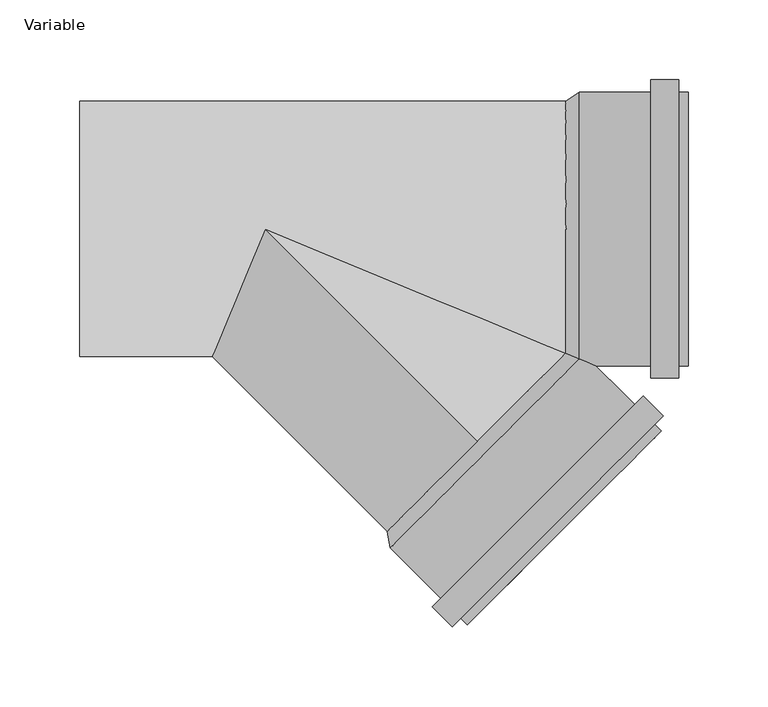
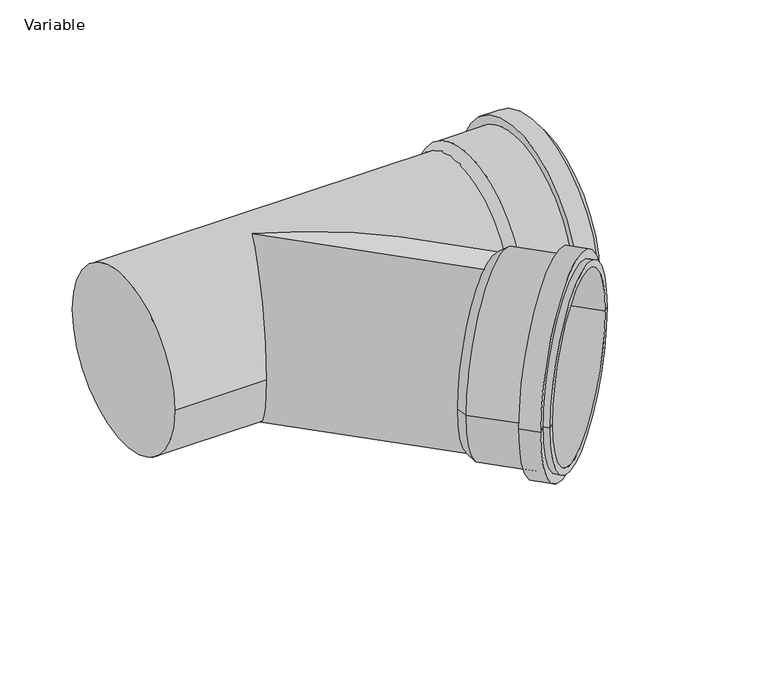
"""IFC4 building model written with IfcOpenShell, lengths in millimetres: pipe fitting geometry, AliaxisFR_Friaphon_Branch_FR : Variable."""

from ifc_helpers import new_model, si_unit, frame, origin, place, context, project, spatial, polyline, circle_curve, ellipse_curve, source, transform, mapped, element, save
from ifc_brep_helpers import plane_surface, cylinder_surface, revolved_surface, advanced_brep


def variable_fdb76eed(model_context):
    return source(origin(), model_context, "Body", "AdvancedBrep", [
        advanced_brep(
        [(126.7135352, -248.0530588, 0.0), (248.0530588, -126.7135352, 0.0), (243.9518395, -130.8147545, 0.0), (130.8147545, -243.9518395, 0.0), (104.6518036, -236.8807717, 0.0), (236.8807717, -104.6518036, 0.0), (249.3965617, -117.1675936, 0.0), (117.1675936, -249.3965617, 0.0), (110.0965258, -231.4360495, 0.0), (231.4360495, -110.0965258, 0.0), (78.5595634, -199.899087, 0.0), (199.899087, -78.5595634, 0.0), (189.6460387, -76.5089537, 0.0), (76.5089537, -189.6460387, 0.0), (122.6123159, -243.9518395, 0.0), (243.9518395, -122.6123159, 0.0)],
        [
            (0, 1, circle_curve(frame((187.383297, -187.383297, 0.0), z_axis=(0.7071067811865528, -0.7071067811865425, 0.0), x_axis=(0.7071067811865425, 0.7071067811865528, 0.0)), 85.8)),
            (1, 2),
            (2, 3, circle_curve(frame((187.383297, -187.383297, 0.0), z_axis=(-0.7071067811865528, 0.7071067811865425, 0.0), x_axis=(0.7071067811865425, 0.7071067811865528, 0.0)), 80.0)),
            (3, 0),
            (1, 0, circle_curve(frame((187.383297, -187.383297, 0.0), z_axis=(0.7071067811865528, -0.7071067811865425, 0.0), x_axis=(0.7071067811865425, 0.7071067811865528, 0.0)), 85.8)),
            (3, 2, circle_curve(frame((187.383297, -187.383297, 0.0), z_axis=(-0.7071067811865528, 0.7071067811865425, 0.0), x_axis=(0.7071067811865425, 0.7071067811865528, 0.0)), 80.0)),
            (4, 5, circle_curve(frame((170.7662877, -170.7662877, 0.0), z_axis=(0.7071067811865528, -0.7071067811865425, 0.0), x_axis=(0.7071067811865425, 0.7071067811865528, 0.0)), 93.5)),
            (5, 6),
            (6, 7, circle_curve(frame((183.2820777, -183.2820777, 0.0), z_axis=(-0.7071067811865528, 0.7071067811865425, 0.0), x_axis=(0.7071067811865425, 0.7071067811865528, 0.0)), 93.5)),
            (7, 4),
            (5, 4, circle_curve(frame((170.7662877, -170.7662877, 0.0), z_axis=(0.7071067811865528, -0.7071067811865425, 0.0), x_axis=(0.7071067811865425, 0.7071067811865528, 0.0)), 93.5)),
            (7, 6, circle_curve(frame((183.2820777, -183.2820777, 0.0), z_axis=(-0.7071067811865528, 0.7071067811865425, 0.0), x_axis=(0.7071067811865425, 0.7071067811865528, 0.0)), 93.5)),
            (8, 9, circle_curve(frame((170.7662877, -170.7662877, 0.0), z_axis=(0.7071067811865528, -0.7071067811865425, 0.0), x_axis=(0.7071067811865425, 0.7071067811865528, 0.0)), 85.8)),
            (9, 5),
            (4, 8),
            (9, 8, circle_curve(frame((170.7662877, -170.7662877, 0.0), z_axis=(0.7071067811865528, -0.7071067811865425, 0.0), x_axis=(0.7071067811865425, 0.7071067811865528, 0.0)), 85.8)),
            (10, 11, circle_curve(frame((139.2293252, -139.2293252, 0.0), z_axis=(0.7071067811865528, -0.7071067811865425, 0.0), x_axis=(0.7071067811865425, 0.7071067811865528, 0.0)), 85.8)),
            (11, 9),
            (8, 10),
            (11, 10, circle_curve(frame((139.2293252, -139.2293252, 0.0), z_axis=(0.7071067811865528, -0.7071067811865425, 0.0), x_axis=(0.7071067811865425, 0.7071067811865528, 0.0)), 85.8)),
            (2, 12),
            (12, 13, circle_curve(frame((133.0774962, -133.0774962, 0.0), z_axis=(-0.7071067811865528, 0.7071067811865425, 0.0), x_axis=(0.7071067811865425, 0.7071067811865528, 0.0)), 80.0)),
            (13, 3),
            (13, 12, circle_curve(frame((133.0774962, -133.0774962, 0.0), z_axis=(-0.7071067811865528, 0.7071067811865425, 0.0), x_axis=(0.7071067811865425, 0.7071067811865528, 0.0)), 80.0)),
            (12, 11),
            (10, 13),
            (14, 15, circle_curve(frame((183.2820777, -183.2820777, 0.0), z_axis=(0.7071067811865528, -0.7071067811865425, 0.0), x_axis=(0.7071067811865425, 0.7071067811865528, 0.0)), 85.8)),
            (15, 1),
            (0, 14),
            (15, 14, circle_curve(frame((183.2820777, -183.2820777, 0.0), z_axis=(0.7071067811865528, -0.7071067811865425, 0.0), x_axis=(0.7071067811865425, 0.7071067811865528, 0.0)), 85.8)),
            (6, 15),
            (14, 7),
        ],
        [
            plane_surface(frame((187.383297, -187.383297, 0.0), z_axis=(0.7071067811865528, -0.7071067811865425, 0.0), x_axis=(0.7071067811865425, 0.7071067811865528, 0.0))),
            cylinder_surface(frame((133.0774962, -133.0774962, 0.0), z_axis=(-0.7071067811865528, 0.7071067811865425, 0.0), x_axis=(0.7071067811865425, 0.7071067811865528, 0.0)), 93.5),
            plane_surface(frame((170.7662877, -170.7662877, 0.0), z_axis=(-0.7071067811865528, 0.7071067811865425, 0.0), x_axis=(0.7071067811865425, 0.7071067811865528, 0.0))),
            cylinder_surface(frame((133.0774962, -133.0774962, 0.0), z_axis=(-0.7071067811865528, 0.7071067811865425, 0.0), x_axis=(0.7071067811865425, 0.7071067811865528, 0.0)), 85.8),
            revolved_surface(polyline([(189.646038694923, -76.50895370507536, 0.0), (243.95183949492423, -130.8147545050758, 0.0)]), (133.0774962, -133.0774962, 0.0), (-0.7071067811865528, 0.7071067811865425, 0.0)),
            revolved_surface(polyline([(199.899087, -78.5595634, 0.0), (189.6460387, -76.5089537, 0.0)]), (133.0774962, -133.0774962, 0.0), (-0.7071067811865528, 0.7071067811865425, 0.0)),
            plane_surface(frame((183.2820777, -183.2820777, 0.0), z_axis=(0.7071067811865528, -0.7071067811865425, 0.0), x_axis=(0.7071067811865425, 0.7071067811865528, 0.0))),
        ],
        [
            (0, [[1, 2, 3, 4]]),
            (0, [[5, -4, 6, -2]]),
            (1, [[7, 8, 9, 10]]),
            (1, [[11, -10, 12, -8]]),
            (2, [[13, 14, -7, 15]]),
            (2, [[16, -15, -11, -14]]),
            (3, [[17, 18, -13, 19]]),
            (3, [[20, -19, -16, -18]]),
            (4, [[-3, 21, 22, 23]]),
            (4, [[-6, -23, 24, -21]]),
            (5, [[-22, 25, -17, 26]]),
            (5, [[-24, -26, -20, -25]]),
            (3, [[27, 28, -1, 29]]),
            (3, [[30, -29, -5, -28]]),
            (6, [[-9, 31, -27, 32]]),
            (6, [[-12, -32, -30, -31]]),
        ],
    ),
        advanced_brep(
        [(265.0, -85.8, 0.0), (265.0, 85.8, 0.0), (265.0, 80.0, 0.0), (265.0, -80.0, 0.0), (241.5, -93.5, 0.0), (241.5, 93.5, 0.0), (259.2, 93.5, 0.0), (259.2, -93.5, 0.0), (241.5, -85.8, 0.0), (241.5, 85.8, 0.0), (196.9, -85.8, 0.0), (196.9, 85.8, 0.0), (188.2, 80.0, 0.0), (188.2, -80.0, 0.0), (259.2, -85.8, 0.0), (259.2, 85.8, 0.0)],
        [
            (0, 1, circle_curve(frame((265.0, 0.0, 0.0), z_axis=(1.0, 0.0, 0.0), x_axis=(0.0, 1.0, 0.0)), 85.8)),
            (1, 2),
            (2, 3, circle_curve(frame((265.0, 0.0, 0.0), z_axis=(-1.0, 0.0, 0.0), x_axis=(0.0, 1.0, 0.0)), 80.0)),
            (3, 0),
            (1, 0, circle_curve(frame((265.0, 0.0, 0.0), z_axis=(1.0, 0.0, 0.0), x_axis=(0.0, 1.0, 0.0)), 85.8)),
            (3, 2, circle_curve(frame((265.0, 0.0, 0.0), z_axis=(-1.0, 0.0, 0.0), x_axis=(0.0, 1.0, 0.0)), 80.0)),
            (4, 5, circle_curve(frame((241.5, 0.0, 0.0), z_axis=(1.0, 0.0, 0.0), x_axis=(0.0, 1.0, 0.0)), 93.5)),
            (5, 6),
            (6, 7, circle_curve(frame((259.2, 0.0, 0.0), z_axis=(-1.0, 0.0, 0.0), x_axis=(0.0, 1.0, 0.0)), 93.5)),
            (7, 4),
            (5, 4, circle_curve(frame((241.5, 0.0, 0.0), z_axis=(1.0, 0.0, 0.0), x_axis=(0.0, 1.0, 0.0)), 93.5)),
            (7, 6, circle_curve(frame((259.2, 0.0, 0.0), z_axis=(-1.0, 0.0, 0.0), x_axis=(0.0, 1.0, 0.0)), 93.5)),
            (8, 9, circle_curve(frame((241.5, 0.0, 0.0), z_axis=(1.0, 0.0, 0.0), x_axis=(0.0, 1.0, 0.0)), 85.8)),
            (9, 5),
            (4, 8),
            (9, 8, circle_curve(frame((241.5, 0.0, 0.0), z_axis=(1.0, 0.0, 0.0), x_axis=(0.0, 1.0, 0.0)), 85.8)),
            (10, 11, circle_curve(frame((196.9, 0.0, 0.0), z_axis=(1.0, 0.0, 0.0), x_axis=(0.0, 1.0, 0.0)), 85.8)),
            (11, 9),
            (8, 10),
            (11, 10, circle_curve(frame((196.9, 0.0, 0.0), z_axis=(1.0, 0.0, 0.0), x_axis=(0.0, 1.0, 0.0)), 85.8)),
            (2, 12),
            (12, 13, circle_curve(frame((188.2, 0.0, 0.0), z_axis=(-1.0, 0.0, 0.0), x_axis=(0.0, 1.0, 0.0)), 80.0)),
            (13, 3),
            (13, 12, circle_curve(frame((188.2, 0.0, 0.0), z_axis=(-1.0, 0.0, 0.0), x_axis=(0.0, 1.0, 0.0)), 80.0)),
            (12, 11),
            (10, 13),
            (14, 15, circle_curve(frame((259.2, 0.0, 0.0), z_axis=(1.0, 0.0, 0.0), x_axis=(0.0, 1.0, 0.0)), 85.8)),
            (15, 1),
            (0, 14),
            (15, 14, circle_curve(frame((259.2, 0.0, 0.0), z_axis=(1.0, 0.0, 0.0), x_axis=(0.0, 1.0, 0.0)), 85.8)),
            (6, 15),
            (14, 7),
        ],
        [
            plane_surface(frame((265.0, 0.0, 0.0), z_axis=(1.0, 0.0, 0.0), x_axis=(0.0, 1.0, 0.0))),
            cylinder_surface(frame((188.2, 0.0, 0.0), z_axis=(-1.0, 0.0, 0.0), x_axis=(0.0, 1.0, 0.0)), 93.5),
            plane_surface(frame((241.5, 0.0, 0.0), z_axis=(-1.0, 0.0, 0.0), x_axis=(0.0, 1.0, 0.0))),
            cylinder_surface(frame((188.2, 0.0, 0.0), z_axis=(-1.0, 0.0, 0.0), x_axis=(0.0, 1.0, 0.0)), 85.8),
            revolved_surface(polyline([(188.2, 80.0, 0.0), (265.0, 80.0, 0.0)]), (188.2, 0.0, 0.0), (-1.0, 0.0, 0.0)),
            revolved_surface(polyline([(196.9, 85.8, 0.0), (188.2, 80.0, 0.0)]), (188.2, 0.0, 0.0), (-1.0, 0.0, 0.0)),
            plane_surface(frame((259.2, 0.0, 0.0), z_axis=(1.0, 0.0, 0.0), x_axis=(0.0, 1.0, 0.0))),
        ],
        [
            (0, [[1, 2, 3, 4]]),
            (0, [[5, -4, 6, -2]]),
            (1, [[7, 8, 9, 10]]),
            (1, [[11, -10, 12, -8]]),
            (2, [[13, 14, -7, 15]]),
            (2, [[16, -15, -11, -14]]),
            (3, [[17, 18, -13, 19]]),
            (3, [[20, -19, -16, -18]]),
            (4, [[-3, 21, 22, 23]]),
            (4, [[-6, -23, 24, -21]]),
            (5, [[-22, 25, -17, 26]]),
            (5, [[-24, -26, -20, -25]]),
            (3, [[27, 28, -1, 29]]),
            (3, [[30, -29, -5, -28]]),
            (6, [[-9, 31, -27, 32]]),
            (6, [[-12, -32, -30, -31]]),
        ],
    ),
        advanced_brep(
        [(194.0, -80.0, 0.0), (194.0, 80.0, 0.0), (-116.0, -80.0, 0.0), (-116.0, 80.0, 0.0), (193.137085, -80.0, 0.0), (0.0, 0.0, -80.0), (-33.137085, -80.0, 0.0), (0.0, 0.0, 80.0), (137.1787156, -137.1787156, -80.0), (137.1787156, -137.1787156, 80.0)],
        [
            (0, 1, circle_curve(frame((194.0, 0.0, 0.0), z_axis=(1.0, 0.0, 0.0), x_axis=(0.0, 1.0, 0.0)), 80.0)),
            (1, 0, circle_curve(frame((194.0, 0.0, 0.0), z_axis=(1.0, 0.0, 0.0), x_axis=(0.0, 1.0, 0.0)), 80.0)),
            (2, 3, circle_curve(frame((-116.0, 0.0, 0.0), z_axis=(-1.0, 0.0, 0.0), x_axis=(0.0, 1.0, 0.0)), 80.0)),
            (3, 2, circle_curve(frame((-116.0, 0.0, 0.0), z_axis=(-1.0, 0.0, 0.0), x_axis=(0.0, 1.0, 0.0)), 80.0)),
            (0, 4),
            (4, 5, ellipse_curve(frame((0.0, 0.0, 0.0), z_axis=(0.3826834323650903, 0.9238795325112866, 0.0), x_axis=(0.9238795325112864, -0.3826834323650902, 0.0)), 209.0500744, 80.0)),
            (5, 6, ellipse_curve(frame((0.0, 0.0, 0.0), z_axis=(-0.9238795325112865, 0.3826834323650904, 0.0), x_axis=(0.3826834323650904, 0.9238795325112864, 0.0)), 86.591376, 80.0)),
            (6, 2),
            (3, 1),
            (6, 7, ellipse_curve(frame((0.0, 0.0, 0.0), z_axis=(-0.9238795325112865, 0.3826834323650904, 0.0), x_axis=(0.3826834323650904, 0.9238795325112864, 0.0)), 86.591376, 80.0)),
            (7, 4, ellipse_curve(frame((0.0, 0.0, 0.0), z_axis=(0.3826834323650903, 0.9238795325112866, 0.0), x_axis=(0.9238795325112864, -0.3826834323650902, 0.0)), 209.0500744, 80.0)),
            (8, 9, circle_curve(frame((137.1787156, -137.1787156, 0.0), z_axis=(0.7071067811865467, -0.7071067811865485, 0.0), x_axis=(0.0, 0.0, 1.0)), 80.0)),
            (9, 8, circle_curve(frame((137.1787156, -137.1787156, 0.0), z_axis=(0.7071067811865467, -0.7071067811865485, 0.0), x_axis=(0.0, 0.0, 1.0)), 80.0)),
            (8, 5),
            (7, 9),
        ],
        [
            plane_surface(frame((194.0, 80.0, 0.0), z_axis=(1.0, 0.0, 0.0), x_axis=(0.0, 0.0, 1.0))),
            plane_surface(frame((-116.0, 80.0, 0.0), z_axis=(-1.0, 0.0, 0.0), x_axis=(0.0, 0.0, -1.0))),
            cylinder_surface(frame((-116.0, 0.0, 0.0), z_axis=(1.0, 0.0, 0.0), x_axis=(0.0, 1.0, 0.0)), 80.0),
            plane_surface(frame((137.1787156, -137.1787156, 80.0), z_axis=(0.7071067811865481, -0.707106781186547, 0.0), x_axis=(-0.707106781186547, -0.7071067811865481, 0.0))),
            cylinder_surface(frame((137.1787156, -137.1787156, 0.0), z_axis=(-0.7071067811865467, 0.7071067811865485, 0.0), x_axis=(0.0, 0.0, 1.0)), 80.0),
        ],
        [
            (0, [[1, 2]]),
            (1, [[3, 4]]),
            (2, [[-1, 5, 6, 7, 8, -4, 9]]),
            (2, [[-2, -9, -3, -8, 10, 11, -5]]),
            (3, [[12, 13]]),
            (4, [[-12, 14, -6, -11, 15]]),
            (4, [[-13, -15, -10, -7, -14]]),
        ],
    ),
    ])


if __name__ == "__main__":
    model = new_model("IFC4")
    model_context = context("Model", 3, world=origin())
    ifc_project = project(units=[si_unit("LENGTHUNIT", "METRE", prefix="MILLI")], contexts=[model_context])
    site = spatial("IfcSite", under=ifc_project)
    building = spatial("IfcBuilding", under=site)
    placement = place(None, origin())
    variable_shape = variable_fdb76eed(model_context)
    element("IfcPipeFitting", 1, ObjectType="AliaxisFR_Friaphon_Branch_FR : Variable", at=placement, inside=building, context=model_context, shape_type="MappedRepresentation", body=[
        mapped(variable_shape, transform((0.0, 0.0, 0.0), x_axis=(1.0, 0.0, 0.0), y_axis=(0.0, 1.0, 0.0), z_axis=(0.0, 0.0, 1.0))),
    ])
    save(model, "model.ifc")
